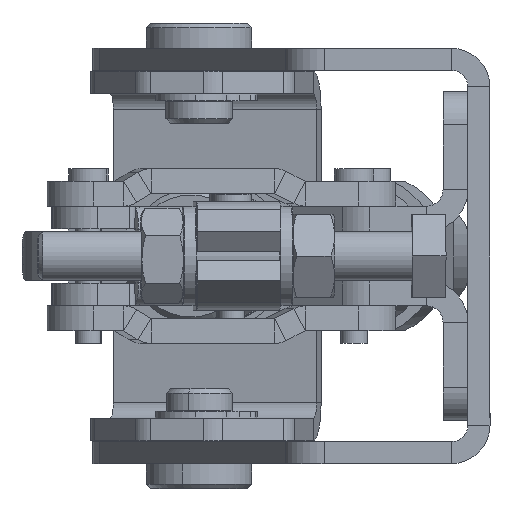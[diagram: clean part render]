
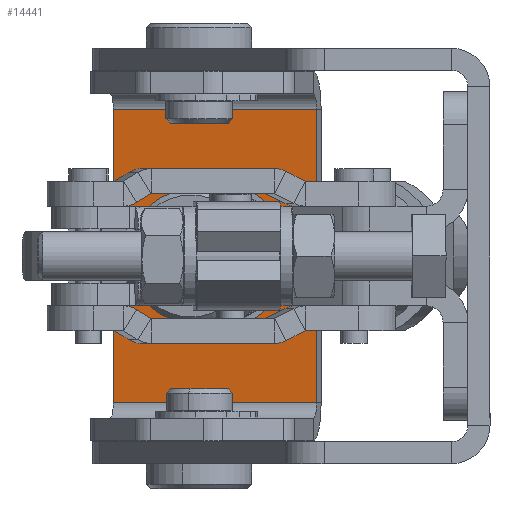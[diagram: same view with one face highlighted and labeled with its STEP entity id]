
A CAD part, left-side view. The second image highlights one B-rep face of the part: STEP entity #14441.
In plain terms, the highlighted planar face has unit normal (-0.979, 0.202, 0) as drawn and (0, 1, 0) by its records, which use the part's own axes.
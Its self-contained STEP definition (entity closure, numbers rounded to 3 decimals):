
#1 = DIRECTION ( 'NONE',  ( 0., 0., -1. ) ) ;
#297 = DIRECTION ( 'NONE',  ( 0., 1., 0. ) ) ;
#704 = LINE ( 'NONE', #12598, #15096 ) ;
#755 = ORIENTED_EDGE ( 'NONE', *, *, #13672, .F. ) ;
#891 = VERTEX_POINT ( 'NONE', #11812 ) ;
#2758 = EDGE_LOOP ( 'NONE', ( #3692, #755, #8705, #17164 ) ) ;
#3523 = AXIS2_PLACEMENT_3D ( 'NONE', #8661, #297, #10050 ) ;
#3692 = ORIENTED_EDGE ( 'NONE', *, *, #5163, .F. ) ;
#4420 = CIRCLE ( 'NONE', #3523, 9. ) ;
#4726 = DIRECTION ( 'NONE',  ( 0., 0., -1. ) ) ;
#5071 = PLANE ( 'NONE',  #13230 ) ;
#5075 = ORIENTED_EDGE ( 'NONE', *, *, #9224, .F. ) ;
#5163 = EDGE_CURVE ( 'NONE', #9363, #8792, #9900, .T. ) ;
#5394 = DIRECTION ( 'NONE',  ( 0., 1., 0. ) ) ;
#6224 = VECTOR ( 'NONE', #10020, 1000. ) ;
#6312 = EDGE_CURVE ( 'NONE', #10787, #8792, #14117, .T. ) ;
#6450 = VERTEX_POINT ( 'NONE', #17005 ) ;
#6965 = VECTOR ( 'NONE', #4726, 1000. ) ;
#7103 = DIRECTION ( 'NONE',  ( 0., 0., 1. ) ) ;
#7604 = FACE_BOUND ( 'NONE', #17603, .T. ) ;
#8512 = CARTESIAN_POINT ( 'NONE',  ( 17.6, 2.65, -12.5 ) ) ;
#8661 = CARTESIAN_POINT ( 'NONE',  ( 0., 2.65, 0. ) ) ;
#8705 = ORIENTED_EDGE ( 'NONE', *, *, #17923, .T. ) ;
#8792 = VERTEX_POINT ( 'NONE', #8512 ) ;
#9224 = EDGE_CURVE ( 'NONE', #17638, #891, #14227, .T. ) ;
#9363 = VERTEX_POINT ( 'NONE', #15301 ) ;
#9842 = DIRECTION ( 'NONE',  ( 1., 0., 0. ) ) ;
#9900 = LINE ( 'NONE', #12760, #6224 ) ;
#10020 = DIRECTION ( 'NONE',  ( 1., 0., 0. ) ) ;
#10050 = DIRECTION ( 'NONE',  ( 0., 0., 1. ) ) ;
#10397 = VECTOR ( 'NONE', #1, 1000. ) ;
#10671 = LINE ( 'NONE', #17261, #6965 ) ;
#10787 = VERTEX_POINT ( 'NONE', #17424 ) ;
#11812 = CARTESIAN_POINT ( 'NONE',  ( 0., 2.65, -9. ) ) ;
#12025 = CARTESIAN_POINT ( 'NONE',  ( 0., 2.65, 9. ) ) ;
#12598 = CARTESIAN_POINT ( 'NONE',  ( -22.25, 2.65, 12.5 ) ) ;
#12654 = CARTESIAN_POINT ( 'NONE',  ( -22.25, 2.65, 12.5 ) ) ;
#12760 = CARTESIAN_POINT ( 'NONE',  ( -22.25, 2.65, -12.5 ) ) ;
#12845 = EDGE_CURVE ( 'NONE', #891, #17638, #4420, .T. ) ;
#13230 = AXIS2_PLACEMENT_3D ( 'NONE', #12654, #15459, #7103 ) ;
#13672 = EDGE_CURVE ( 'NONE', #6450, #9363, #10671, .T. ) ;
#13748 = CARTESIAN_POINT ( 'NONE',  ( 0., 2.65, 0. ) ) ;
#14117 = LINE ( 'NONE', #16690, #10397 ) ;
#14227 = CIRCLE ( 'NONE', #14447, 9. ) ;
#14441 = ADVANCED_FACE ( 'NONE', ( #7604, #15001 ), #5071, .T. ) ;
#14447 = AXIS2_PLACEMENT_3D ( 'NONE', #13748, #5394, #15123 ) ;
#15001 = FACE_OUTER_BOUND ( 'NONE', #2758, .T. ) ;
#15096 = VECTOR ( 'NONE', #9842, 1000. ) ;
#15123 = DIRECTION ( 'NONE',  ( 0., 0., 1. ) ) ;
#15301 = CARTESIAN_POINT ( 'NONE',  ( -17.6, 2.65, -12.5 ) ) ;
#15459 = DIRECTION ( 'NONE',  ( 0., 1., 0. ) ) ;
#15686 = ORIENTED_EDGE ( 'NONE', *, *, #12845, .F. ) ;
#16690 = CARTESIAN_POINT ( 'NONE',  ( 17.6, 2.65, 12.5 ) ) ;
#17005 = CARTESIAN_POINT ( 'NONE',  ( -17.6, 2.65, 12.5 ) ) ;
#17164 = ORIENTED_EDGE ( 'NONE', *, *, #6312, .T. ) ;
#17261 = CARTESIAN_POINT ( 'NONE',  ( -17.6, 2.65, 12.5 ) ) ;
#17424 = CARTESIAN_POINT ( 'NONE',  ( 17.6, 2.65, 12.5 ) ) ;
#17603 = EDGE_LOOP ( 'NONE', ( #5075, #15686 ) ) ;
#17638 = VERTEX_POINT ( 'NONE', #12025 ) ;
#17923 = EDGE_CURVE ( 'NONE', #6450, #10787, #704, .T. ) ;
